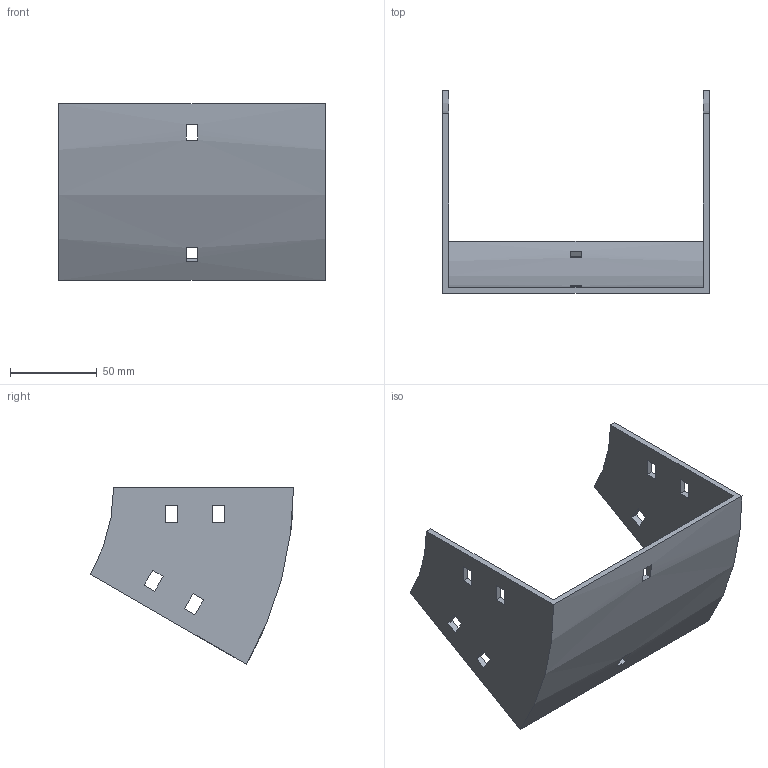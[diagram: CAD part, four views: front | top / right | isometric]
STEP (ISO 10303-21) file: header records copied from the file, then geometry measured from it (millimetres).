
FILE_DESCRIPTION (( 'STEP AP214' ), '1' );
FILE_NAME ('32B1D150.step', '2025-02-21T09:42:28', ( '' ), ( '' ), 'SwSTEP 2.0', 'SolidWorks 2023', '' );
FILE_SCHEMA (( 'AUTOMOTIVE_DESIGN' ));
Length unit declared in the file: millimetre
Products named in the file (1): 32B1D150
Bounding box: 154 x 117.4 x 102 mm (x, y, z)
Volume: 110052.9 mm3; surface area: 66915.1 mm2
Topology: 1 solids, 1 shells, 50 faces, 144 edges, 96 vertices
Faces by surface type: plane 46, cylinder 4
Entity records: 1687 total; most frequent: CARTESIAN_POINT 291, ORIENTED_EDGE 288, DIRECTION 262, EDGE_CURVE 144, LINE 128, VECTOR 128, VERTEX_POINT 96, EDGE_LOOP 70
